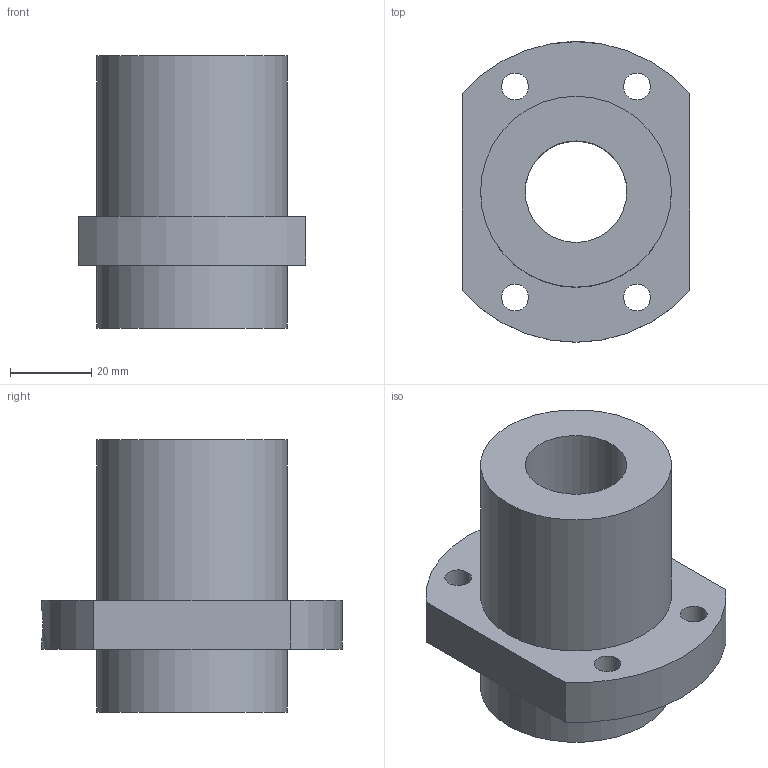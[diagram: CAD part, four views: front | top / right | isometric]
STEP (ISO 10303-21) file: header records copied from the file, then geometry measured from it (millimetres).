
FILE_DESCRIPTION(/* description */ (''),/* implementation_level */ '2;1');
FILE_NAME(/* name */ '25-25S2',/* time_stamp */ '2007-05-17T17:51:59+08:00',/* author */ (''),/* organization */ (''),/* preprocessor_version */ 'ST-DEVELOPER v9',/* originating_system */ 'UGS - NX 4.0',/* authorisation */ '');
FILE_SCHEMA (('CONFIG_CONTROL_DESIGN'));
Length unit declared in the file: millimetre
Products named in the file (1): 25-25S2
Bounding box: 56 x 74 x 67 mm (x, y, z)
Volume: 104434 mm3; surface area: 23686.1 mm2
Topology: 1 solids, 1 shells, 18 faces, 40 edges, 27 vertices
Faces by surface type: cylinder 11, plane 7
Full cylindrical faces by diameter (mm): 6 x1, 6.6 x4, 8 x1, 25 x1, 47 x2
Entity records: 678 total; most frequent: CARTESIAN_POINT 189, DIRECTION 86, ORIENTED_EDGE 60, EDGE_LOOP 42, AXIS2_PLACEMENT_3D 39, FACE_BOUND 33, EDGE_CURVE 30, VERTEX_POINT 26
